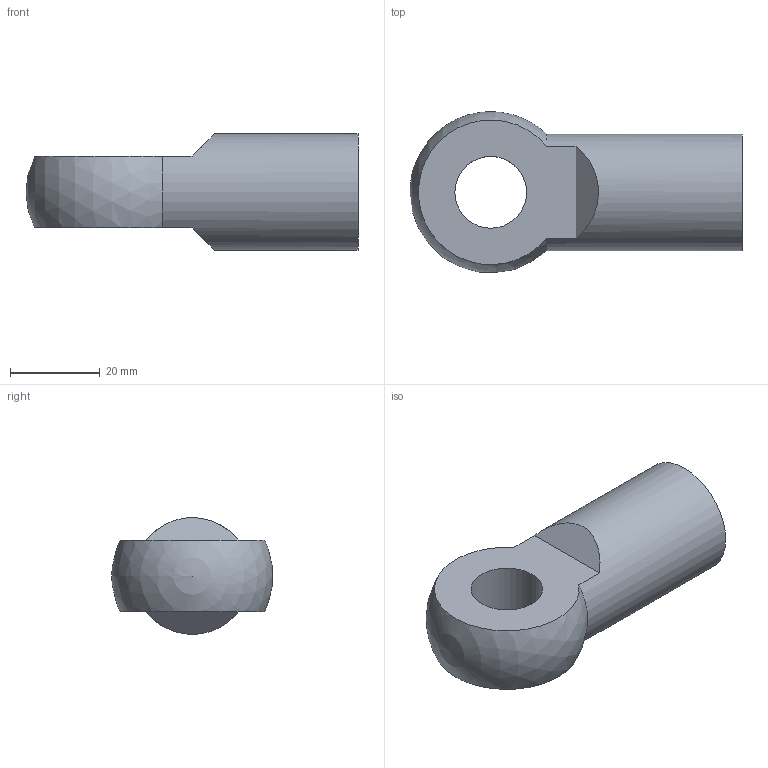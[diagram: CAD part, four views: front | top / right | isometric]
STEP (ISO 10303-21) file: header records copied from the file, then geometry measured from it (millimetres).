
FILE_DESCRIPTION( ( 'STEP AP203' ), '1' );
FILE_NAME( 'C:/Temp/Ganter_Step_05_03_2020/data/3_6/gn752/Joint piece GN 752-16-M16.stp', '2020-03-12T14:12:41', ( 'License CC BY-ND 4.0' ), ( 'CADENAS' ), ' ', 'PARTsolutions', ' ' );
FILE_SCHEMA( ( 'CONFIG_CONTROL_DESIGN' ) );
Length unit declared in the file: millimetre
Products named in the file (1): _Joint piece GN 752-16-M16
Bounding box: 74 x 35.83 x 26 mm (x, y, z)
Volume: 26741 mm3; surface area: 9045.1 mm2
Topology: 1 solids, 1 shells, 12 faces, 31 edges, 20 vertices
Faces by surface type: plane 5, cylinder 3, sphere 2, cone 2
Full cylindrical faces by diameter (mm): 13.835 x1, 16 x1, 26 x1
Entity records: 348 total; most frequent: DIRECTION 58, CARTESIAN_POINT 49, ORIENTED_EDGE 38, AXIS2_PLACEMENT_3D 26, EDGE_LOOP 20, EDGE_CURVE 19, VERTEX_POINT 17, FACE_OUTER_BOUND 15
